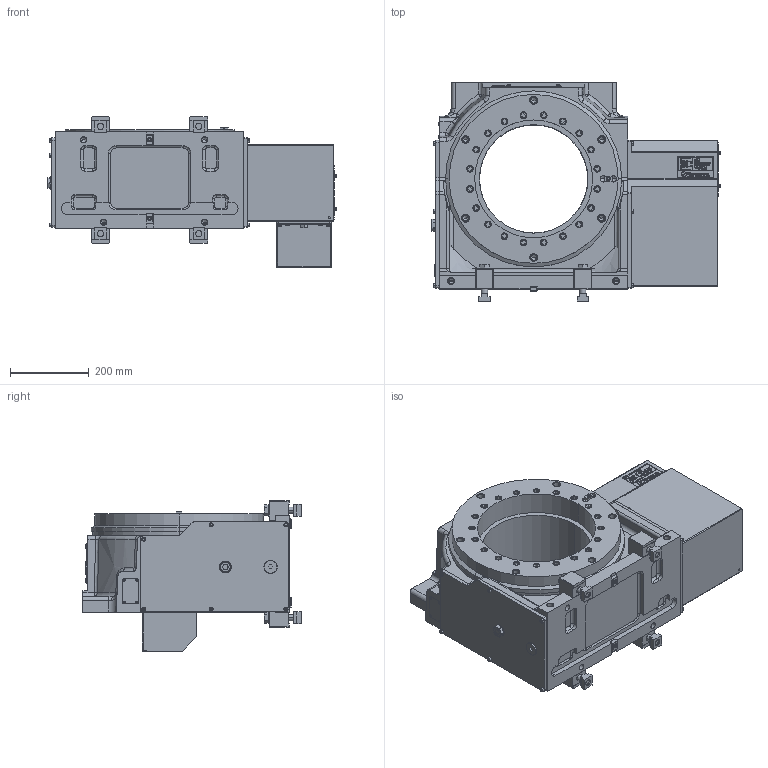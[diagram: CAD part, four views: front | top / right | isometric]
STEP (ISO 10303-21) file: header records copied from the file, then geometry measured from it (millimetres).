
FILE_DESCRIPTION (( 'STEP AP214' ), '1' );
FILE_NAME ('TP430RHF.STEP', '2020-03-26T08:24:06', ( '' ), ( '' ), 'SwSTEP 2.0', 'SolidWorks 2017', '' );
FILE_SCHEMA (( 'AUTOMOTIVE_DESIGN' ));
Length unit declared in the file: millimetre
Products named in the file (13): キタガワシール; KQ2E06-01; コネクタカバー（61E3639910）; コネクタプレート(61E446509); 僇僶乕丂俹(61E4458433)MR250RAM01; モータケース(TP430RHF); ガイドブロック(61M4197783); TP430RH00僋儈僞僥(61E502601); テーブル(61E8349391)TP430RH00; 儂儞僞僀ASSY(61E1147572)TP430RH00; TP430RHF; CLAMPING PARTS(61E430706)結合; TP430RHFホンタイ
Assembly tree (16 placements, depth 4):
  TP430RHF
    TP430RHFホンタイ
      TP430RH00僋儈僞僥(61E502601)
        儂儞僞僀ASSY(61E1147572)TP430RH00
        テーブル(61E8349391)TP430RH00
      ガイドブロック(61M4197783)  x2
      モータケース(TP430RHF)
      僇僶乕丂俹(61E4458433)MR250RAM01
      コネクタプレート(61E446509)
      コネクタカバー（61E3639910）
      KQ2E06-01
      キタガワシール
    CLAMPING PARTS(61E430706)結合  x4
Bounding box: 733.7 x 556 x 382 mm (x, y, z)
Volume: 20623290.5 mm3; surface area: 2394613.2 mm2
Topology: 13 solids, 17 shells, 3505 faces, 8964 edges, 5765 vertices
Faces by surface type: plane 2398, cylinder 669, cone 290, torus 123, bspline 18, sphere 7
Entity records: 116477 total; most frequent: CARTESIAN_POINT 18631, ORIENTED_EDGE 16884, DIRECTION 16742, EDGE_CURVE 8446, VECTOR 6640, LINE 6640, VERTEX_POINT 5489, AXIS2_PLACEMENT_3D 5051
